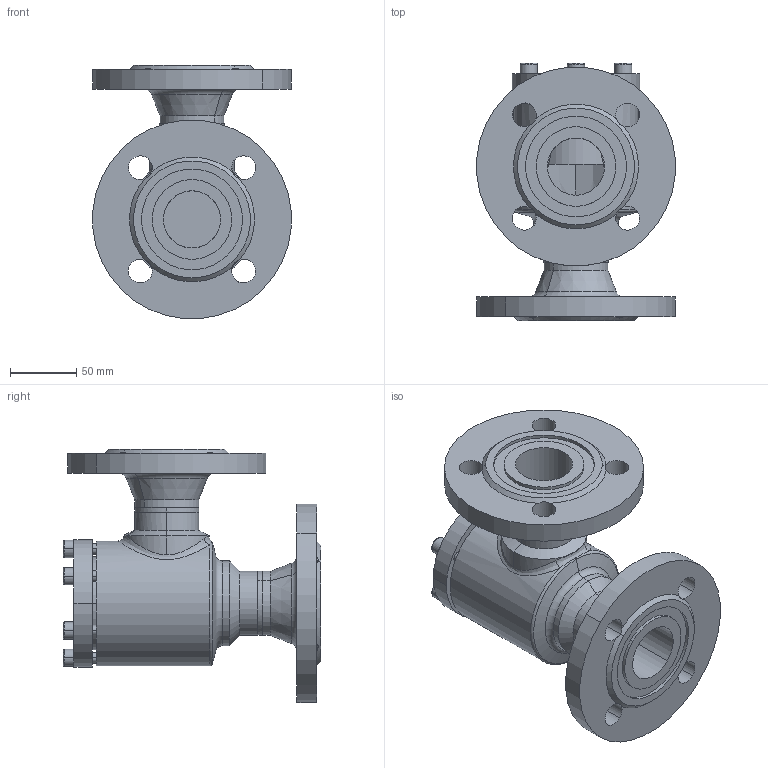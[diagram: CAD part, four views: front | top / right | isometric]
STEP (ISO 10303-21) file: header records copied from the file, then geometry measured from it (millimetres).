
FILE_DESCRIPTION (( 'STEP AP214' ), '1' );
FILE_NAME ('RV28420D14-DN040_DIN-FL-N_PS40.STEP', '2006-04-28T05:28:56', ( 'Herr Grams' ), ( 'AWP GmbH' ), 'SwSTEP 2.0', 'SolidWorks 2002296', '' );
FILE_SCHEMA (( 'AUTOMOTIVE_DESIGN' ));
Length unit declared in the file: millimetre
Products named in the file (9): RV28420D14-DN040_DIN-FL-N_PS40; RV28300E15_Deck+Schr-DN40-50_Standard; Deckel28300E15-DN40-50_Standard; Zylinderschraube-DIN912_M 8x 25; Gehäuse-kpl16420-DN040_DIN_PS40_Standard; bead16420-Geh-040-2_Standard; bead16420-Geh-040-1_Standard; Gehäuse16400-DN040_Standard; Flansch-DIN2635-Nut_PS40_DIN-Flansch-DN040_PS40-Nut
Assembly tree (14 placements, depth 3):
  RV28420D14-DN040_DIN-FL-N_PS40
    Gehäuse-kpl16420-DN040_DIN_PS40_Standard
      bead16420-Geh-040-2_Standard
      Flansch-DIN2635-Nut_PS40_DIN-Flansch-DN040_PS40-Nut  x2
      Gehäuse16400-DN040_Standard
      bead16420-Geh-040-1_Standard
    RV28300E15_Deck+Schr-DN40-50_Standard
      Zylinderschraube-DIN912_M 8x 25  x6
      Deckel28300E15-DN40-50_Standard
Bounding box: 149.43 x 194 x 190.71 mm (x, y, z)
Volume: 1115369.9 mm3; surface area: 217179.3 mm2
Topology: 12 solids, 12 shells, 258 faces, 593 edges, 371 vertices
Faces by surface type: cylinder 97, plane 85, cone 45, torus 20, bspline 11
Entity records: 16194 total; most frequent: CARTESIAN_POINT 12522, DIRECTION 711, ORIENTED_EDGE 642, EDGE_CURVE 321, AXIS2_PLACEMENT_3D 303, VERTEX_POINT 199, EDGE_LOOP 168, CIRCLE 159
